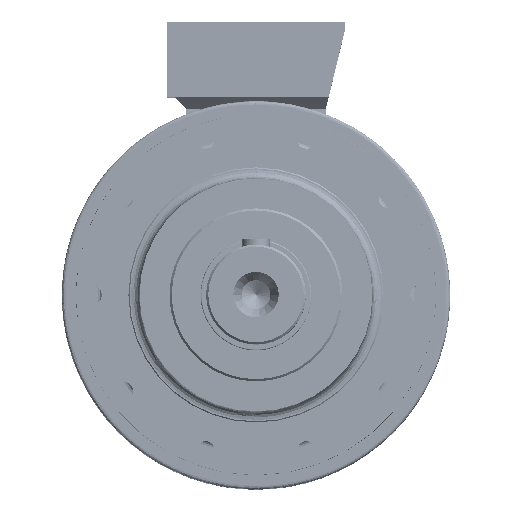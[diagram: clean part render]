
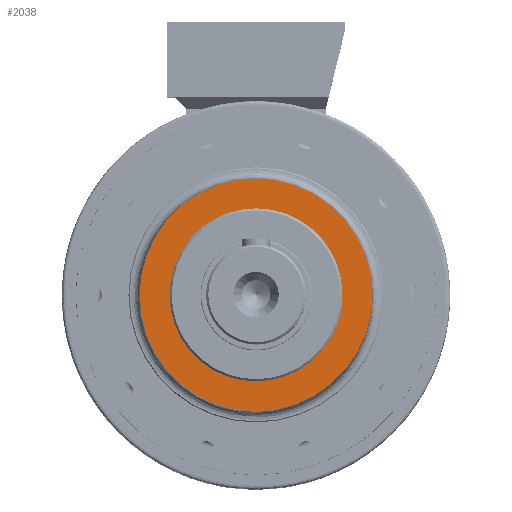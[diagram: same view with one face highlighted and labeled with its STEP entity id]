
A CAD part, top view. The second image highlights one B-rep face of the part: STEP entity #2038.
In plain terms, the highlighted planar face has unit normal (0, 0, 1).
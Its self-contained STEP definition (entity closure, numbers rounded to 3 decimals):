
#382 = VERTEX_POINT ( 'NONE', #10914 ) ;
#390 = VERTEX_POINT ( 'NONE', #10865 ) ;
#399 = VERTEX_POINT ( 'NONE', #10847 ) ;
#450 = VERTEX_POINT ( 'NONE', #11043 ) ;
#2038 = ADVANCED_FACE ( 'NONE', ( #15296, #15050 ), #107546, .T. ) ;
#10847 = CARTESIAN_POINT ( 'NONE',  ( 0., 105., 181. ) ) ;
#10865 = CARTESIAN_POINT ( 'NONE',  ( 0., -78., 181. ) ) ;
#10914 = CARTESIAN_POINT ( 'NONE',  ( 0., 78., 181. ) ) ;
#11043 = CARTESIAN_POINT ( 'NONE',  ( 0., -105., 181. ) ) ;
#15050 = FACE_BOUND ( 'NONE', #20383, .T. ) ;
#15296 = FACE_OUTER_BOUND ( 'NONE', #20199, .T. ) ;
#20199 = EDGE_LOOP ( 'NONE', ( #88225, #88207 ) ) ;
#20383 = EDGE_LOOP ( 'NONE', ( #88284, #88196 ) ) ;
#24304 = AXIS2_PLACEMENT_3D ( 'NONE', #107389, #107493, #107502 ) ;
#52987 = CIRCLE ( 'NONE', #97232, 105. ) ;
#53032 = CIRCLE ( 'NONE', #97316, 105. ) ;
#53126 = CIRCLE ( 'NONE', #97328, 78. ) ;
#53135 = CIRCLE ( 'NONE', #97309, 78. ) ;
#57154 = DIRECTION ( 'NONE',  ( 0., 1., 0. ) ) ;
#57180 = DIRECTION ( 'NONE',  ( 0., 0., -1. ) ) ;
#57199 = CARTESIAN_POINT ( 'NONE',  ( 0., 0., 181. ) ) ;
#57205 = DIRECTION ( 'NONE',  ( 0., 1., 0. ) ) ;
#57267 = CARTESIAN_POINT ( 'NONE',  ( 0., 0., 181. ) ) ;
#57274 = DIRECTION ( 'NONE',  ( 0., 0., -1. ) ) ;
#57322 = DIRECTION ( 'NONE',  ( 0., 0., -1. ) ) ;
#57344 = DIRECTION ( 'NONE',  ( 0., 1., 0. ) ) ;
#57365 = CARTESIAN_POINT ( 'NONE',  ( 0., 0., 181. ) ) ;
#58851 = CARTESIAN_POINT ( 'NONE',  ( 0., 0., 181. ) ) ;
#58855 = DIRECTION ( 'NONE',  ( 0., 0., -1. ) ) ;
#58857 = DIRECTION ( 'NONE',  ( 0., 1., 0. ) ) ;
#88196 = ORIENTED_EDGE ( 'NONE', *, *, #156166, .T. ) ;
#88207 = ORIENTED_EDGE ( 'NONE', *, *, #156131, .F. ) ;
#88225 = ORIENTED_EDGE ( 'NONE', *, *, #156064, .F. ) ;
#88284 = ORIENTED_EDGE ( 'NONE', *, *, #156158, .T. ) ;
#97232 = AXIS2_PLACEMENT_3D ( 'NONE', #58851, #58855, #58857 ) ;
#97309 = AXIS2_PLACEMENT_3D ( 'NONE', #57365, #57322, #57344 ) ;
#97316 = AXIS2_PLACEMENT_3D ( 'NONE', #57199, #57180, #57154 ) ;
#97328 = AXIS2_PLACEMENT_3D ( 'NONE', #57267, #57274, #57205 ) ;
#107389 = CARTESIAN_POINT ( 'NONE',  ( 0., 105., 181. ) ) ;
#107493 = DIRECTION ( 'NONE',  ( 0., 0., 1. ) ) ;
#107502 = DIRECTION ( 'NONE',  ( 0., -1., 0. ) ) ;
#107546 = PLANE ( 'NONE',  #24304 ) ;
#156064 = EDGE_CURVE ( 'NONE', #399, #450, #52987, .T. ) ;
#156131 = EDGE_CURVE ( 'NONE', #450, #399, #53032, .T. ) ;
#156158 = EDGE_CURVE ( 'NONE', #382, #390, #53126, .T. ) ;
#156166 = EDGE_CURVE ( 'NONE', #390, #382, #53135, .T. ) ;
